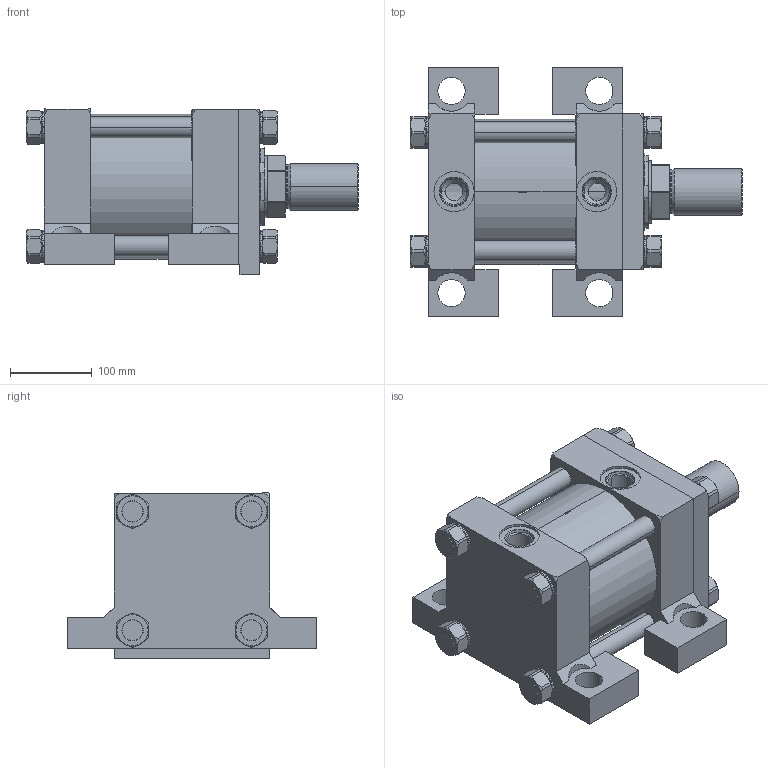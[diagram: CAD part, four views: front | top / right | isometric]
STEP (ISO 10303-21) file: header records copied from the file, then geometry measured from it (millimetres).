
FILE_DESCRIPTION (( 'STEP AP214' ), '1' );
FILE_NAME ('6.00CP2HHNAT134A2.000.step', '2026-03-26T21:15:39', ( '' ), ( '' ), 'SwSTEP 2.0', 'SolidWorks 2023', '' );
FILE_SCHEMA (( 'AUTOMOTIVE_DESIGN' ));
Length unit declared in the file: inch
Products named in the file (1): 6.00CP2HHNAT134A2.000
Bounding box: 406.4 x 304.8 x 203.2 mm (x, y, z)
Volume: 8657845.8 mm3; surface area: 959983.4 mm2
Topology: 44 solids, 44 shells, 1219 faces, 3145 edges, 2022 vertices
Faces by surface type: plane 795, cylinder 221, cone 161, bspline 34, torus 8
Entity records: 55136 total; most frequent: CARTESIAN_POINT 10949, ORIENTED_EDGE 6290, DIRECTION 5161, EDGE_CURVE 3145, VERTEX_POINT 2022, AXIS2_PLACEMENT_3D 1748, LINE 1665, VECTOR 1665
